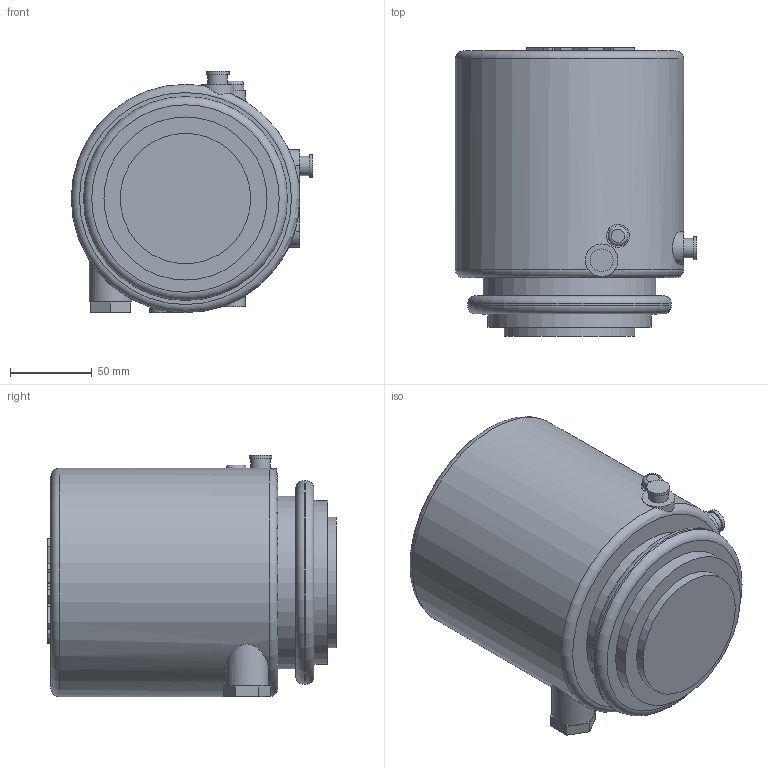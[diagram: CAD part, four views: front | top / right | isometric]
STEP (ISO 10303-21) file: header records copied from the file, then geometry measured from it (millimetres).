
FILE_DESCRIPTION(/* description */ (''),/* implementation_level */ '2;1');
FILE_NAME(/* name */ 'C:\V\Delavan\Designs\Customer Shell Models\Valves\W61\CU4 - maint. free.stp',/* time_stamp */ '2021-04-21T10:09:57-05:00',/* author */ ('FA67NH'),/* organization */ (''),/* preprocessor_version */ 'ST-DEVELOPER v18.1',/* originating_system */ 'Autodesk Inventor 2020',/* authorisation */ '');
FILE_SCHEMA (('AUTOMOTIVE_DESIGN { 1 0 10303 214 3 1 1 }'));
Length unit declared in the file: inch
Products named in the file (1): CU4 - maint. free
Bounding box: 148 x 177 x 148 mm (x, y, z)
Volume: 2476208.2 mm3; surface area: 111289.1 mm2
Topology: 1 solids, 1 shells, 114 faces, 285 edges, 189 vertices
Faces by surface type: cylinder 50, plane 42, bspline 17, torus 5
Full cylindrical faces by diameter (mm): 12 x3, 14 x4, 20 x1, 26 x1, 80 x1, 100 x1, 106 x1, 125 x1, 140 x1
Entity records: 5961 total; most frequent: CARTESIAN_POINT 3172, DIRECTION 583, ORIENTED_EDGE 570, EDGE_CURVE 285, AXIS2_PLACEMENT_3D 241, VERTEX_POINT 189, CIRCLE 135, EDGE_LOOP 130
